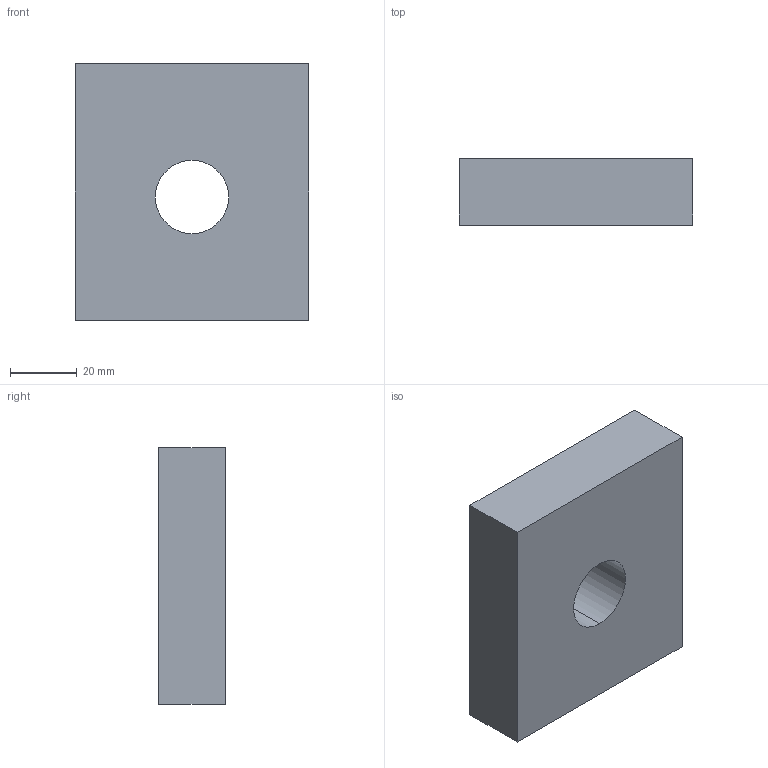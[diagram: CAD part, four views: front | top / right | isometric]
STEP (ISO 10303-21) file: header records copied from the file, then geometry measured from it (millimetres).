
FILE_DESCRIPTION (( 'STEP AP203' ), '1' );
FILE_NAME ('1107077.STEP', '2020-01-09T14:31:18', ( '' ), ( '' ), 'SwSTEP 2.0', 'SolidWorks 2013', '' );
FILE_SCHEMA (( 'CONFIG_CONTROL_DESIGN' ));
Length unit declared in the file: millimetre
Products named in the file (1): 1107077
Bounding box: 70 x 20 x 77 mm (x, y, z)
Volume: 100197.3 mm3; surface area: 17282 mm2
Topology: 1 solids, 1 shells, 8 faces, 18 edges, 12 vertices
Faces by surface type: plane 6, cylinder 2
Entity records: 307 total; most frequent: DIRECTION 40, CARTESIAN_POINT 39, ORIENTED_EDGE 36, EDGE_CURVE 18, LINE 14, VECTOR 14, AXIS2_PLACEMENT_3D 13, VERTEX_POINT 12
